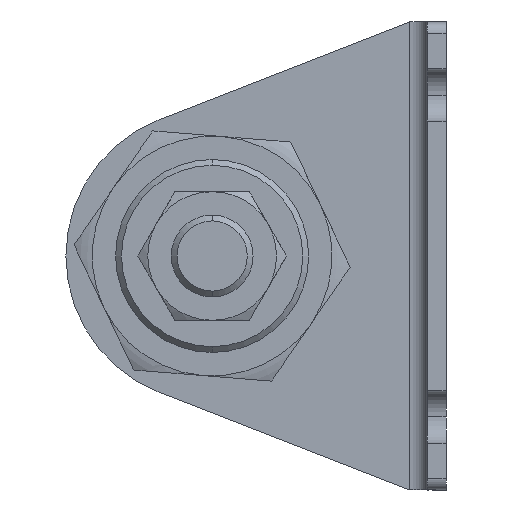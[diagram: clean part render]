
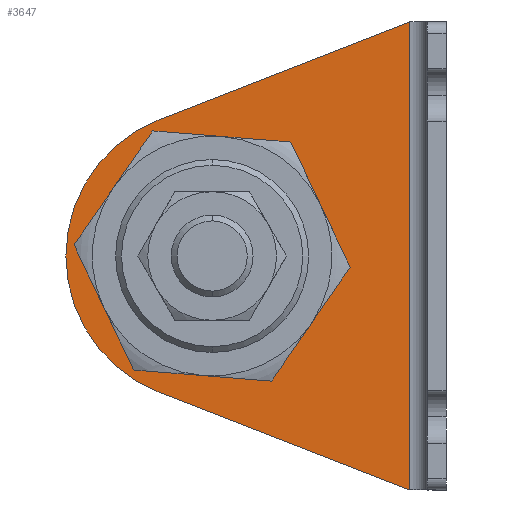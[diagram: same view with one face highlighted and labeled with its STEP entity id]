
A CAD part, left-side view. The second image highlights one B-rep face of the part: STEP entity #3647.
In plain terms, the highlighted planar face has unit normal (-1, 0, 0) as drawn and (1, 0, 0) by its records, which use the part's own axes.
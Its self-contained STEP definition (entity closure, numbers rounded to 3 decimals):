
#130 = DIRECTION ( 'NONE',  ( 0., 0.932, -0.363 ) ) ;
#167 = EDGE_LOOP ( 'NONE', ( #2276, #3580 ) ) ;
#196 = CARTESIAN_POINT ( 'NONE',  ( 3.2, 49.076, -16.706 ) ) ;
#197 = CIRCLE ( 'NONE', #1102, 25. ) ;
#301 = CARTESIAN_POINT ( 'NONE',  ( 3.2, 3.595, -81.015 ) ) ;
#310 = AXIS2_PLACEMENT_3D ( 'NONE', #2255, #2592, #625 ) ;
#419 = DIRECTION ( 'NONE',  ( 0., 1., 0. ) ) ;
#480 = ORIENTED_EDGE ( 'NONE', *, *, #1107, .T. ) ;
#505 = DIRECTION ( 'NONE',  ( 0., 1., 0. ) ) ;
#506 = EDGE_CURVE ( 'NONE', #3599, #3995, #1069, .T. ) ;
#511 = CIRCLE ( 'NONE', #3069, 16.5 ) ;
#588 = CARTESIAN_POINT ( 'NONE',  ( 3.2, 23.5, -40. ) ) ;
#625 = DIRECTION ( 'NONE',  ( 0., 1., 0. ) ) ;
#631 = ORIENTED_EDGE ( 'NONE', *, *, #2121, .T. ) ;
#654 = EDGE_CURVE ( 'NONE', #710, #4061, #511, .T. ) ;
#710 = VERTEX_POINT ( 'NONE', #588 ) ;
#827 = CIRCLE ( 'NONE', #310, 25. ) ;
#1042 = EDGE_CURVE ( 'NONE', #1211, #3460, #197, .T. ) ;
#1069 = LINE ( 'NONE', #2412, #3097 ) ;
#1102 = AXIS2_PLACEMENT_3D ( 'NONE', #2088, #4043, #419 ) ;
#1105 = PLANE ( 'NONE',  #1206 ) ;
#1107 = EDGE_CURVE ( 'NONE', #3995, #2096, #2154, .T. ) ;
#1206 = AXIS2_PLACEMENT_3D ( 'NONE', #3412, #3751, #1766 ) ;
#1211 = VERTEX_POINT ( 'NONE', #2921 ) ;
#1233 = FACE_BOUND ( 'NONE', #167, .T. ) ;
#1254 = CARTESIAN_POINT ( 'NONE',  ( 3.2, 6.2, 0. ) ) ;
#1568 = CARTESIAN_POINT ( 'NONE',  ( 3.2, 6.2, -80. ) ) ;
#1648 = LINE ( 'NONE', #3754, #3306 ) ;
#1766 = DIRECTION ( 'NONE',  ( 0., 1., 0. ) ) ;
#1851 = ORIENTED_EDGE ( 'NONE', *, *, #506, .T. ) ;
#1887 = CARTESIAN_POINT ( 'NONE',  ( 3.2, 40., -40. ) ) ;
#1950 = CIRCLE ( 'NONE', #2433, 16.5 ) ;
#2088 = CARTESIAN_POINT ( 'NONE',  ( 3.2, 40., -40. ) ) ;
#2096 = VERTEX_POINT ( 'NONE', #4280 ) ;
#2121 = EDGE_CURVE ( 'NONE', #2096, #1211, #827, .T. ) ;
#2154 = LINE ( 'NONE', #301, #3456 ) ;
#2190 = DIRECTION ( 'NONE',  ( 0., 1., 0. ) ) ;
#2255 = CARTESIAN_POINT ( 'NONE',  ( 3.2, 40., -40. ) ) ;
#2276 = ORIENTED_EDGE ( 'NONE', *, *, #2880, .F. ) ;
#2307 = EDGE_CURVE ( 'NONE', #3599, #3460, #1648, .T. ) ;
#2403 = EDGE_LOOP ( 'NONE', ( #480, #631, #4199, #3406, #1851 ) ) ;
#2412 = CARTESIAN_POINT ( 'NONE',  ( 3.2, 6.2, -80. ) ) ;
#2433 = AXIS2_PLACEMENT_3D ( 'NONE', #1887, #4173, #2190 ) ;
#2592 = DIRECTION ( 'NONE',  ( 1., 0., 0. ) ) ;
#2880 = EDGE_CURVE ( 'NONE', #4061, #710, #1950, .T. ) ;
#2921 = CARTESIAN_POINT ( 'NONE',  ( 3.2, 65., -40. ) ) ;
#3069 = AXIS2_PLACEMENT_3D ( 'NONE', #4130, #3433, #505 ) ;
#3097 = VECTOR ( 'NONE', #4073, 1000. ) ;
#3306 = VECTOR ( 'NONE', #130, 1000. ) ;
#3406 = ORIENTED_EDGE ( 'NONE', *, *, #2307, .F. ) ;
#3412 = CARTESIAN_POINT ( 'NONE',  ( 3.2, 3.2, -80. ) ) ;
#3433 = DIRECTION ( 'NONE',  ( 1., 0., 0. ) ) ;
#3456 = VECTOR ( 'NONE', #3935, 1000. ) ;
#3460 = VERTEX_POINT ( 'NONE', #196 ) ;
#3580 = ORIENTED_EDGE ( 'NONE', *, *, #654, .F. ) ;
#3599 = VERTEX_POINT ( 'NONE', #1254 ) ;
#3647 = ADVANCED_FACE ( 'NONE', ( #1233, #3662 ), #1105, .T. ) ;
#3662 = FACE_OUTER_BOUND ( 'NONE', #2403, .T. ) ;
#3751 = DIRECTION ( 'NONE',  ( 1., 0., 0. ) ) ;
#3754 = CARTESIAN_POINT ( 'NONE',  ( 3.2, 30.657, -9.529 ) ) ;
#3935 = DIRECTION ( 'NONE',  ( 0., 0.932, 0.363 ) ) ;
#3995 = VERTEX_POINT ( 'NONE', #1568 ) ;
#4043 = DIRECTION ( 'NONE',  ( 1., 0., 0. ) ) ;
#4061 = VERTEX_POINT ( 'NONE', #4218 ) ;
#4073 = DIRECTION ( 'NONE',  ( 0., 0., -1. ) ) ;
#4130 = CARTESIAN_POINT ( 'NONE',  ( 3.2, 40., -40. ) ) ;
#4173 = DIRECTION ( 'NONE',  ( 1., 0., 0. ) ) ;
#4199 = ORIENTED_EDGE ( 'NONE', *, *, #1042, .T. ) ;
#4218 = CARTESIAN_POINT ( 'NONE',  ( 3.2, 56.5, -40. ) ) ;
#4280 = CARTESIAN_POINT ( 'NONE',  ( 3.2, 49.076, -63.294 ) ) ;
